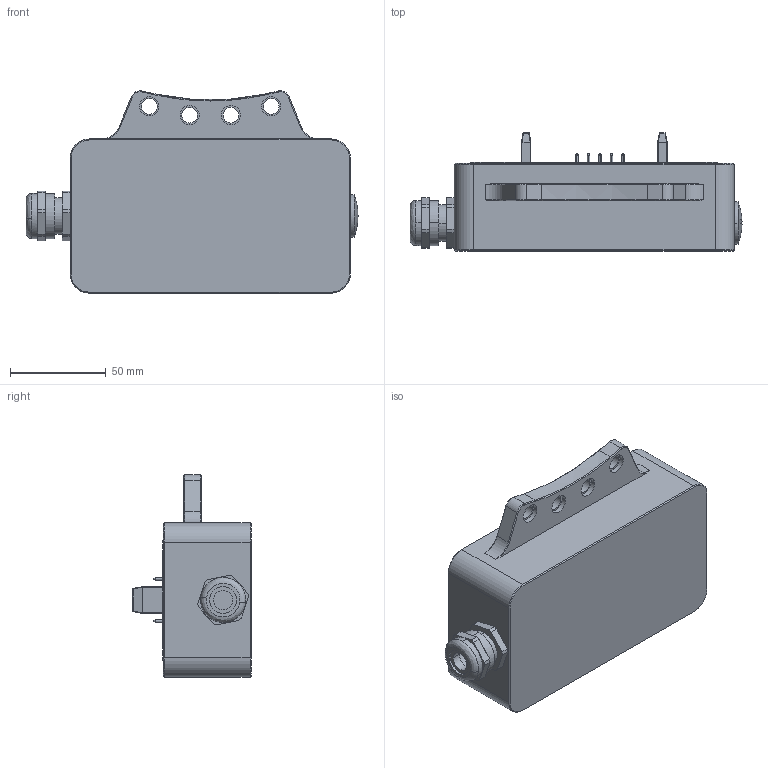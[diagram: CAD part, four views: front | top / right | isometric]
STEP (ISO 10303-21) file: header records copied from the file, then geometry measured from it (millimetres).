
FILE_DESCRIPTION (( 'STEP AP203' ), '1' );
FILE_NAME ('ECM能源组合模块从侧.STEP', '2025-02-19T02:36:05', ( 'Windows User' ), ( 'P R C' ), 'SwSTEP 2.0', 'SolidWorks 2018', '' );
FILE_SCHEMA (( 'CONFIG_CONTROL_DESIGN' ));
Length unit declared in the file: millimetre
Products named in the file (1): ECM能源组合模块从侧
Bounding box: 172.97 x 61.5 x 105.36 mm (x, y, z)
Volume: 478096.2 mm3; surface area: 75650.1 mm2
Topology: 2 solids, 57 shells, 2055 faces, 5007 edges, 3199 vertices
Faces by surface type: plane 977, cylinder 536, bspline 349, cone 185, sphere 8
Entity records: 73790 total; most frequent: CARTESIAN_POINT 26685, ORIENTED_EDGE 9970, DIRECTION 9503, EDGE_CURVE 4985, AXIS2_PLACEMENT_3D 3375, VERTEX_POINT 3199, LINE 2753, VECTOR 2753
